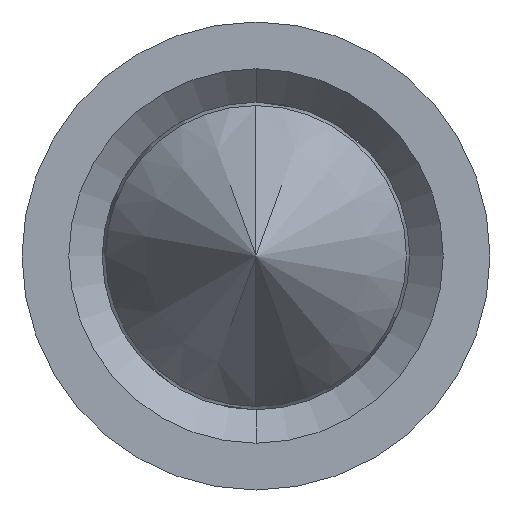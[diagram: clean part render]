
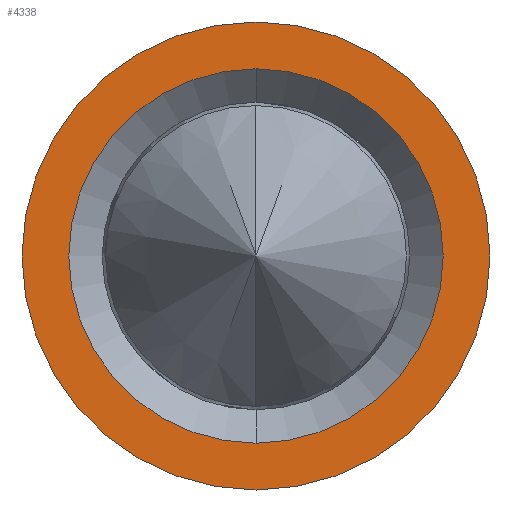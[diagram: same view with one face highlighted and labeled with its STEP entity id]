
A CAD part, left-side view. The second image highlights one B-rep face of the part: STEP entity #4338.
In plain terms, the highlighted planar face has unit normal (-1, 0, 0).
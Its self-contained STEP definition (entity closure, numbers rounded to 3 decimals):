
#111 = ORIENTED_EDGE ( 'NONE', *, *, #148, .F. ) ;
#120 = CARTESIAN_POINT ( 'NONE',  ( -10.922, 0., -0.889 ) ) ;
#148 = EDGE_CURVE ( 'NONE', #3314, #968, #387, .T. ) ;
#224 = ORIENTED_EDGE ( 'NONE', *, *, #3246, .T. ) ;
#387 = CIRCLE ( 'NONE', #2849, 0.711 ) ;
#701 = DIRECTION ( 'NONE',  ( 1., 0., 0. ) ) ;
#704 = DIRECTION ( 'NONE',  ( 0., 0., 1. ) ) ;
#935 = DIRECTION ( 'NONE',  ( 0., 0., 1. ) ) ;
#968 = VERTEX_POINT ( 'NONE', #2766 ) ;
#1114 = DIRECTION ( 'NONE',  ( 0., 0., 1. ) ) ;
#1410 = FACE_BOUND ( 'NONE', #2977, .T. ) ;
#1518 = AXIS2_PLACEMENT_3D ( 'NONE', #2800, #4358, #935 ) ;
#1575 = ORIENTED_EDGE ( 'NONE', *, *, #1768, .T. ) ;
#1768 = EDGE_CURVE ( 'NONE', #2483, #4673, #4520, .T. ) ;
#2195 = FACE_OUTER_BOUND ( 'NONE', #2336, .T. ) ;
#2204 = AXIS2_PLACEMENT_3D ( 'NONE', #3673, #701, #4843 ) ;
#2336 = EDGE_LOOP ( 'NONE', ( #1575, #224 ) ) ;
#2483 = VERTEX_POINT ( 'NONE', #4637 ) ;
#2535 = CARTESIAN_POINT ( 'NONE',  ( -10.922, 0., 0. ) ) ;
#2619 = DIRECTION ( 'NONE',  ( -1., 0., 0. ) ) ;
#2622 = AXIS2_PLACEMENT_3D ( 'NONE', #3929, #2897, #4411 ) ;
#2766 = CARTESIAN_POINT ( 'NONE',  ( -10.922, 0., -0.711 ) ) ;
#2800 = CARTESIAN_POINT ( 'NONE',  ( -10.922, 0., 0. ) ) ;
#2849 = AXIS2_PLACEMENT_3D ( 'NONE', #2535, #4515, #1114 ) ;
#2897 = DIRECTION ( 'NONE',  ( -1., 0., 0. ) ) ;
#2977 = EDGE_LOOP ( 'NONE', ( #111, #3248 ) ) ;
#3246 = EDGE_CURVE ( 'NONE', #4673, #2483, #3638, .T. ) ;
#3248 = ORIENTED_EDGE ( 'NONE', *, *, #3420, .F. ) ;
#3300 = PLANE ( 'NONE',  #2204 ) ;
#3314 = VERTEX_POINT ( 'NONE', #4732 ) ;
#3420 = EDGE_CURVE ( 'NONE', #968, #3314, #3885, .T. ) ;
#3638 = CIRCLE ( 'NONE', #1518, 0.889 ) ;
#3673 = CARTESIAN_POINT ( 'NONE',  ( -10.922, -0.9, 0.9 ) ) ;
#3713 = AXIS2_PLACEMENT_3D ( 'NONE', #4531, #2619, #704 ) ;
#3885 = CIRCLE ( 'NONE', #2622, 0.711 ) ;
#3929 = CARTESIAN_POINT ( 'NONE',  ( -10.922, 0., 0. ) ) ;
#4338 = ADVANCED_FACE ( 'NONE', ( #1410, #2195 ), #3300, .F. ) ;
#4358 = DIRECTION ( 'NONE',  ( -1., 0., 0. ) ) ;
#4411 = DIRECTION ( 'NONE',  ( 0., 0., 1. ) ) ;
#4515 = DIRECTION ( 'NONE',  ( -1., 0., 0. ) ) ;
#4520 = CIRCLE ( 'NONE', #3713, 0.889 ) ;
#4531 = CARTESIAN_POINT ( 'NONE',  ( -10.922, 0., 0. ) ) ;
#4637 = CARTESIAN_POINT ( 'NONE',  ( -10.922, 0., 0.889 ) ) ;
#4673 = VERTEX_POINT ( 'NONE', #120 ) ;
#4732 = CARTESIAN_POINT ( 'NONE',  ( -10.922, 0., 0.711 ) ) ;
#4843 = DIRECTION ( 'NONE',  ( 0., 0., -1. ) ) ;
